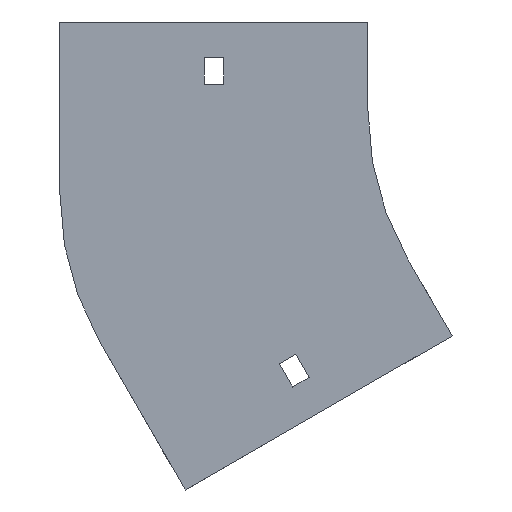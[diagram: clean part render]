
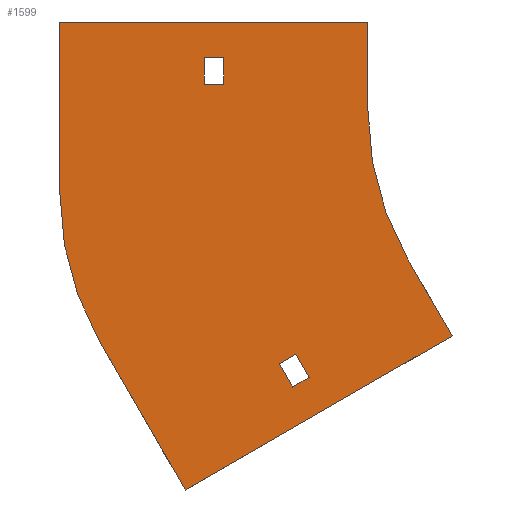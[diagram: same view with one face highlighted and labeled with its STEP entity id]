
A CAD part, front view. The second image highlights one B-rep face of the part: STEP entity #1599.
In plain terms, the highlighted planar face has unit normal (0, -1, 0).
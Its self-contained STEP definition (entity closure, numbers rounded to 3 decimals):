
#3 = CARTESIAN_POINT ( 'NONE',  ( -204., 0., 30. ) ) ;
#7 = VERTEX_POINT ( 'NONE', #3 ) ;
#9 = DIRECTION ( 'NONE',  ( 0., 0., 1. ) ) ;
#57 = VERTEX_POINT ( 'NONE', #769 ) ;
#79 = EDGE_CURVE ( 'NONE', #319, #1423, #887, .T. ) ;
#121 = DIRECTION ( 'NONE',  ( 0., 0., 1. ) ) ;
#134 = LINE ( 'NONE', #289, #1036 ) ;
#185 = EDGE_LOOP ( 'NONE', ( #1458, #1815, #1192, #1656 ) ) ;
#212 = CARTESIAN_POINT ( 'NONE',  ( -119.821, 0., -89.963 ) ) ;
#226 = CARTESIAN_POINT ( 'NONE',  ( -204., 0., -27.867 ) ) ;
#235 = VERTEX_POINT ( 'NONE', #854 ) ;
#243 = CARTESIAN_POINT ( 'NONE',  ( -104., 0., -27.867 ) ) ;
#248 = DIRECTION ( 'NONE',  ( 1., 0., 0. ) ) ;
#262 = FACE_OUTER_BOUND ( 'NONE', #1017, .T. ) ;
#263 = VECTOR ( 'NONE', #1408, 1000. ) ;
#274 = CARTESIAN_POINT ( 'NONE',  ( 0., 0., 0. ) ) ;
#279 = LINE ( 'NONE', #884, #914 ) ;
#287 = CARTESIAN_POINT ( 'NONE',  ( -204., 0., -27.867 ) ) ;
#289 = CARTESIAN_POINT ( 'NONE',  ( -204., 0., 30. ) ) ;
#311 = DIRECTION ( 'NONE',  ( 0., 0., -1. ) ) ;
#319 = VERTEX_POINT ( 'NONE', #1029 ) ;
#330 = ORIENTED_EDGE ( 'NONE', *, *, #999, .F. ) ;
#353 = EDGE_CURVE ( 'NONE', #1044, #235, #1199, .T. ) ;
#364 = EDGE_CURVE ( 'NONE', #799, #1758, #279, .T. ) ;
#383 = CARTESIAN_POINT ( 'NONE',  ( -129.95, 0., -85.419 ) ) ;
#387 = LINE ( 'NONE', #1010, #682 ) ;
#388 = ORIENTED_EDGE ( 'NONE', *, *, #79, .F. ) ;
#395 = EDGE_CURVE ( 'NONE', #1021, #7, #1929, .T. ) ;
#444 = EDGE_CURVE ( 'NONE', #235, #319, #685, .T. ) ;
#476 = EDGE_CURVE ( 'NONE', #1611, #57, #1835, .T. ) ;
#557 = DIRECTION ( 'NONE',  ( 0., 0., -1. ) ) ;
#562 = VERTEX_POINT ( 'NONE', #810 ) ;
#596 = EDGE_CURVE ( 'NONE', #57, #661, #1871, .T. ) ;
#609 = AXIS2_PLACEMENT_3D ( 'NONE', #1794, #1043, #311 ) ;
#628 = CARTESIAN_POINT ( 'NONE',  ( -161.669, 0., -127.981 ) ) ;
#638 = VECTOR ( 'NONE', #557, 1000. ) ;
#661 = VERTEX_POINT ( 'NONE', #1735 ) ;
#678 = VECTOR ( 'NONE', #1049, 1000. ) ;
#680 = EDGE_CURVE ( 'NONE', #661, #1488, #1588, .T. ) ;
#682 = VECTOR ( 'NONE', #729, 1000. ) ;
#685 = CIRCLE ( 'NONE', #609, 100. ) ;
#690 = VECTOR ( 'NONE', #1071, 1000. ) ;
#700 = CARTESIAN_POINT ( 'NONE',  ( -155.25, 0., 18. ) ) ;
#701 = VECTOR ( 'NONE', #1564, 1000. ) ;
#729 = DIRECTION ( 'NONE',  ( -0.866, 0., -0.5 ) ) ;
#751 = VECTOR ( 'NONE', #248, 1000. ) ;
#768 = CARTESIAN_POINT ( 'NONE',  ( -155.25, 0., 9. ) ) ;
#769 = CARTESIAN_POINT ( 'NONE',  ( -155.25, 0., 18. ) ) ;
#791 = ORIENTED_EDGE ( 'NONE', *, *, #1947, .F. ) ;
#799 = VERTEX_POINT ( 'NONE', #1347 ) ;
#810 = CARTESIAN_POINT ( 'NONE',  ( -190.603, 0., -77.867 ) ) ;
#839 = CARTESIAN_POINT ( 'NONE',  ( -148.75, 0., 9. ) ) ;
#854 = CARTESIAN_POINT ( 'NONE',  ( -100., 0., 0. ) ) ;
#868 = ORIENTED_EDGE ( 'NONE', *, *, #364, .F. ) ;
#875 = DIRECTION ( 'NONE',  ( 0., 1., 0. ) ) ;
#876 = VERTEX_POINT ( 'NONE', #1250 ) ;
#884 = CARTESIAN_POINT ( 'NONE',  ( -125.45, 0., -93.213 ) ) ;
#887 = LINE ( 'NONE', #1182, #1883 ) ;
#905 = FACE_BOUND ( 'NONE', #185, .T. ) ;
#914 = VECTOR ( 'NONE', #1657, 1000. ) ;
#916 = DIRECTION ( 'NONE',  ( 0., -1., 0. ) ) ;
#936 = DIRECTION ( 'NONE',  ( 0., 0., 1. ) ) ;
#964 = DIRECTION ( 'NONE',  ( 0.5, 0., -0.866 ) ) ;
#979 = VERTEX_POINT ( 'NONE', #1812 ) ;
#981 = ORIENTED_EDGE ( 'NONE', *, *, #1852, .F. ) ;
#999 = EDGE_CURVE ( 'NONE', #1423, #979, #1734, .T. ) ;
#1010 = CARTESIAN_POINT ( 'NONE',  ( -129.95, 0., -85.419 ) ) ;
#1013 = LINE ( 'NONE', #1365, #1209 ) ;
#1017 = EDGE_LOOP ( 'NONE', ( #1469, #1103, #981, #1289, #330, #388, #1922, #1418 ) ) ;
#1021 = VERTEX_POINT ( 'NONE', #226 ) ;
#1022 = EDGE_CURVE ( 'NONE', #1054, #799, #1461, .T. ) ;
#1029 = CARTESIAN_POINT ( 'NONE',  ( -86.603, 0., -50. ) ) ;
#1036 = VECTOR ( 'NONE', #1915, 1000. ) ;
#1043 = DIRECTION ( 'NONE',  ( 0., -1., 0. ) ) ;
#1044 = VERTEX_POINT ( 'NONE', #1879 ) ;
#1049 = DIRECTION ( 'NONE',  ( 0., 0., -1. ) ) ;
#1054 = VERTEX_POINT ( 'NONE', #1262 ) ;
#1055 = ORIENTED_EDGE ( 'NONE', *, *, #1022, .F. ) ;
#1071 = DIRECTION ( 'NONE',  ( -0.5, 0., 0.866 ) ) ;
#1103 = ORIENTED_EDGE ( 'NONE', *, *, #395, .F. ) ;
#1157 = EDGE_CURVE ( 'NONE', #7, #1044, #134, .T. ) ;
#1182 = CARTESIAN_POINT ( 'NONE',  ( -86.603, 0., -50. ) ) ;
#1192 = ORIENTED_EDGE ( 'NONE', *, *, #680, .T. ) ;
#1199 = LINE ( 'NONE', #1805, #678 ) ;
#1200 = FACE_BOUND ( 'NONE', #1315, .T. ) ;
#1209 = VECTOR ( 'NONE', #1471, 1000. ) ;
#1225 = VECTOR ( 'NONE', #964, 1000. ) ;
#1250 = CARTESIAN_POINT ( 'NONE',  ( -124.321, 0., -82.169 ) ) ;
#1262 = CARTESIAN_POINT ( 'NONE',  ( -129.95, 0., -85.419 ) ) ;
#1267 = LINE ( 'NONE', #1278, #263 ) ;
#1278 = CARTESIAN_POINT ( 'NONE',  ( -155.25, 0., 9. ) ) ;
#1285 = EDGE_CURVE ( 'NONE', #979, #562, #1538, .T. ) ;
#1289 = ORIENTED_EDGE ( 'NONE', *, *, #1285, .F. ) ;
#1293 = CARTESIAN_POINT ( 'NONE',  ( -71.603, 0., -75.981 ) ) ;
#1302 = CARTESIAN_POINT ( 'NONE',  ( -148.75, 0., 9. ) ) ;
#1315 = EDGE_LOOP ( 'NONE', ( #868, #1055, #791, #1905 ) ) ;
#1316 = AXIS2_PLACEMENT_3D ( 'NONE', #274, #916, #1459 ) ;
#1339 = AXIS2_PLACEMENT_3D ( 'NONE', #243, #875, #121 ) ;
#1347 = CARTESIAN_POINT ( 'NONE',  ( -125.45, 0., -93.213 ) ) ;
#1365 = CARTESIAN_POINT ( 'NONE',  ( -124.321, 0., -82.169 ) ) ;
#1408 = DIRECTION ( 'NONE',  ( -1., 0., 0. ) ) ;
#1418 = ORIENTED_EDGE ( 'NONE', *, *, #353, .F. ) ;
#1423 = VERTEX_POINT ( 'NONE', #1438 ) ;
#1438 = CARTESIAN_POINT ( 'NONE',  ( -71.603, 0., -75.981 ) ) ;
#1458 = ORIENTED_EDGE ( 'NONE', *, *, #476, .T. ) ;
#1459 = DIRECTION ( 'NONE',  ( 0., 0., -1. ) ) ;
#1461 = LINE ( 'NONE', #383, #1225 ) ;
#1469 = ORIENTED_EDGE ( 'NONE', *, *, #1157, .F. ) ;
#1471 = DIRECTION ( 'NONE',  ( -0.5, 0., 0.866 ) ) ;
#1488 = VERTEX_POINT ( 'NONE', #1302 ) ;
#1538 = LINE ( 'NONE', #628, #690 ) ;
#1564 = DIRECTION ( 'NONE',  ( -0.866, 0., -0.5 ) ) ;
#1583 = CIRCLE ( 'NONE', #1339, 100. ) ;
#1588 = LINE ( 'NONE', #839, #638 ) ;
#1599 = ADVANCED_FACE ( 'NONE', ( #905, #262, #1200 ), #1626, .T. ) ;
#1611 = VERTEX_POINT ( 'NONE', #768 ) ;
#1626 = PLANE ( 'NONE',  #1316 ) ;
#1627 = EDGE_CURVE ( 'NONE', #1758, #876, #1013, .T. ) ;
#1656 = ORIENTED_EDGE ( 'NONE', *, *, #1693, .T. ) ;
#1657 = DIRECTION ( 'NONE',  ( 0.866, 0., 0.5 ) ) ;
#1677 = VECTOR ( 'NONE', #936, 1000. ) ;
#1693 = EDGE_CURVE ( 'NONE', #1488, #1611, #1267, .T. ) ;
#1719 = CARTESIAN_POINT ( 'NONE',  ( -155.25, 0., 9. ) ) ;
#1734 = LINE ( 'NONE', #1293, #701 ) ;
#1735 = CARTESIAN_POINT ( 'NONE',  ( -148.75, 0., 18. ) ) ;
#1736 = VECTOR ( 'NONE', #9, 1000. ) ;
#1758 = VERTEX_POINT ( 'NONE', #212 ) ;
#1789 = DIRECTION ( 'NONE',  ( 0.5, 0., -0.866 ) ) ;
#1794 = CARTESIAN_POINT ( 'NONE',  ( 0., 0., 0. ) ) ;
#1805 = CARTESIAN_POINT ( 'NONE',  ( -100., 0., 30. ) ) ;
#1812 = CARTESIAN_POINT ( 'NONE',  ( -161.669, 0., -127.981 ) ) ;
#1815 = ORIENTED_EDGE ( 'NONE', *, *, #596, .T. ) ;
#1835 = LINE ( 'NONE', #1719, #1677 ) ;
#1852 = EDGE_CURVE ( 'NONE', #562, #1021, #1583, .T. ) ;
#1871 = LINE ( 'NONE', #700, #751 ) ;
#1879 = CARTESIAN_POINT ( 'NONE',  ( -100., 0., 30. ) ) ;
#1883 = VECTOR ( 'NONE', #1789, 1000. ) ;
#1905 = ORIENTED_EDGE ( 'NONE', *, *, #1627, .F. ) ;
#1915 = DIRECTION ( 'NONE',  ( 1., 0., 0. ) ) ;
#1922 = ORIENTED_EDGE ( 'NONE', *, *, #444, .F. ) ;
#1929 = LINE ( 'NONE', #287, #1736 ) ;
#1947 = EDGE_CURVE ( 'NONE', #876, #1054, #387, .T. ) ;
